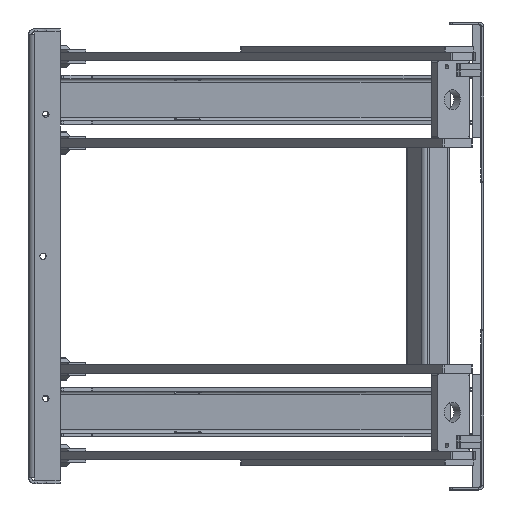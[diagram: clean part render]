
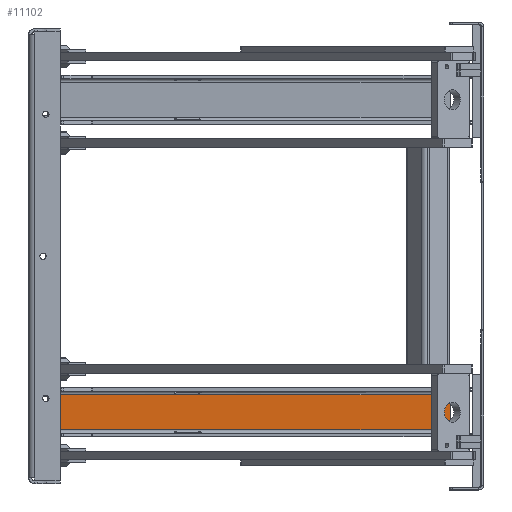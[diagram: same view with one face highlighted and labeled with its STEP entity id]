
A CAD part, left-side view. The second image highlights one B-rep face of the part: STEP entity #11102.
In plain terms, the highlighted planar face has unit normal (-0.589, -0.808, 0) as drawn and (0, 0, 1) by its records, which use the part's own axes.
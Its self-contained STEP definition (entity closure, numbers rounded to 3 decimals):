
#413=PLANE('',#12224);
#954=LINE('',#17777,#1950);
#956=LINE('',#17781,#1952);
#960=LINE('',#17870,#1956);
#961=LINE('',#17871,#1957);
#1950=VECTOR('',#14286,62.148);
#1952=VECTOR('',#14290,1195.);
#1956=VECTOR('',#14298,1195.);
#1957=VECTOR('',#14299,62.148);
#2994=FACE_OUTER_BOUND('',#3675,.T.);
#3675=EDGE_LOOP('',(#8522,#8523,#8524,#8525));
#5104=VERTEX_POINT('',#17650);
#5116=VERTEX_POINT('',#17772);
#5117=VERTEX_POINT('',#17780);
#5124=VERTEX_POINT('',#17869);
#6364=EDGE_CURVE('',#5104,#5116,#954,.T.);
#6366=EDGE_CURVE('',#5117,#5104,#956,.T.);
#6374=EDGE_CURVE('',#5116,#5124,#960,.T.);
#6375=EDGE_CURVE('',#5117,#5124,#961,.T.);
#8522=ORIENTED_EDGE('',*,*,#6364,.T.);
#8523=ORIENTED_EDGE('',*,*,#6374,.T.);
#8524=ORIENTED_EDGE('',*,*,#6375,.F.);
#8525=ORIENTED_EDGE('',*,*,#6366,.T.);
#11102=ADVANCED_FACE('',(#2994),#413,.T.);
#12224=AXIS2_PLACEMENT_3D('',#17868,#14296,#14297);
#14286=DIRECTION('',(0.,-1.,0.));
#14290=DIRECTION('',(-1.,0.,0.));
#14296=DIRECTION('center_axis',(0.,0.,1.));
#14297=DIRECTION('ref_axis',(1.,0.,0.));
#14298=DIRECTION('',(1.,0.,0.));
#14299=DIRECTION('',(0.,-1.,0.));
#17650=CARTESIAN_POINT('',(0.,31.074,6.));
#17772=CARTESIAN_POINT('',(0.,-31.074,6.));
#17777=CARTESIAN_POINT('',(0.,15.537,6.));
#17780=CARTESIAN_POINT('',(1195.,31.074,6.));
#17781=CARTESIAN_POINT('',(255.389,31.074,6.));
#17868=CARTESIAN_POINT('Origin',(555.778,0.,6.));
#17869=CARTESIAN_POINT('',(1195.,-31.074,6.));
#17870=CARTESIAN_POINT('',(875.389,-31.074,6.));
#17871=CARTESIAN_POINT('',(1195.,-82.077,6.));
